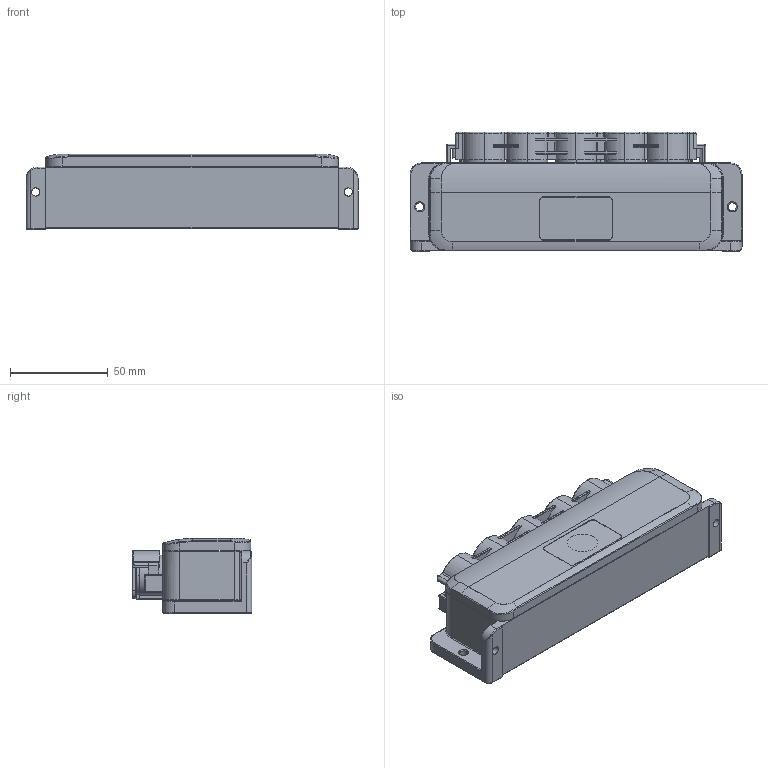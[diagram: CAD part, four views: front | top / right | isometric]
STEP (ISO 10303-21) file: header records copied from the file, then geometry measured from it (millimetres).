
FILE_DESCRIPTION (( 'STEP AP203' ), '1' );
FILE_NAME ('JB-RR.STEP', '2022-04-01T02:45:15', ( '' ), ( '' ), 'SwSTEP 2.0', 'SolidWorks 2020', '' );
FILE_SCHEMA (( 'CONFIG_CONTROL_DESIGN' ));
Length unit declared in the file: millimetre
Products named in the file (1): JB-RR
Bounding box: 170 x 61.2 x 38.5 mm (x, y, z)
Surface area: 46912.2 mm2 (no closed solid volume)
Topology: 0 solids, 9 shells, 539 faces, 1595 edges, 1048 vertices
Faces by surface type: cylinder 218, plane 187, torus 93, bspline 21, cone 11, sphere 9
Entity records: 23720 total; most frequent: CARTESIAN_POINT 10392, ORIENTED_EDGE 2853, DIRECTION 2414, EDGE_CURVE 1586, VERTEX_POINT 1048, AXIS2_PLACEMENT_3D 819, LINE 776, VECTOR 776
